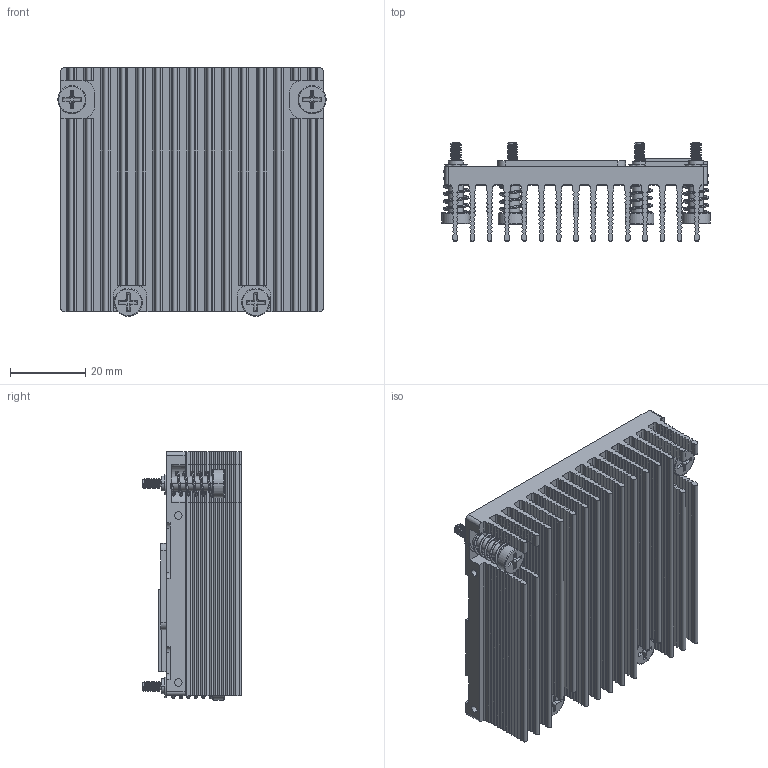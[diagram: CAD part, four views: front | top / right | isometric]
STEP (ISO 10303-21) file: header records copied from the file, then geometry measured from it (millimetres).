
FILE_DESCRIPTION((''),'2;1');
FILE_NAME('E1961211065008R_ASM','2023-11-30T10:39:18',('isaac_lin'),(''),'CREO PARAMETRIC BY PTC INC, 2023014','CREO PARAMETRIC BY PTC INC, 2023014','');
FILE_SCHEMA(('CONFIG_CONTROL_DESIGN'));
Products named in the file (7): EQM-EHL-HEATSINK-W84-H23; SCREW-M2_5_; SPRING-M2_5-; E-RING-M2_5_1; SPRING-M2_5_ASM; PK404_22X16-5X0-8T; E1961211065008R_ASM
Assembly tree (9 placements, depth 3):
  E1961211065008R_ASM
    EQM-EHL-HEATSINK-W84-H23
    SPRING-M2_5_ASM  x4
      SCREW-M2_5_
      SPRING-M2_5-
      E-RING-M2_5_1
    PK404_22X16-5X0-8T
Bounding box: 71.5 x 26.3 x 66.25 mm (x, y, z)
Volume: 40093 mm3; surface area: 44736.5 mm2
Topology: 14 solids, 14 shells, 1524 faces, 6741 edges, 5288 vertices
Faces by surface type: plane 1137, cylinder 331, bspline 40, torus 16
Entity records: 59183 total; most frequent: CARTESIAN_POINT 14359, DIRECTION 8596, ORIENTED_EDGE 7186, VECTOR 5520, LINE 5520, EDGE_CURVE 3593, TRIMMED_CURVE 2392, VERTEX_POINT 2388
